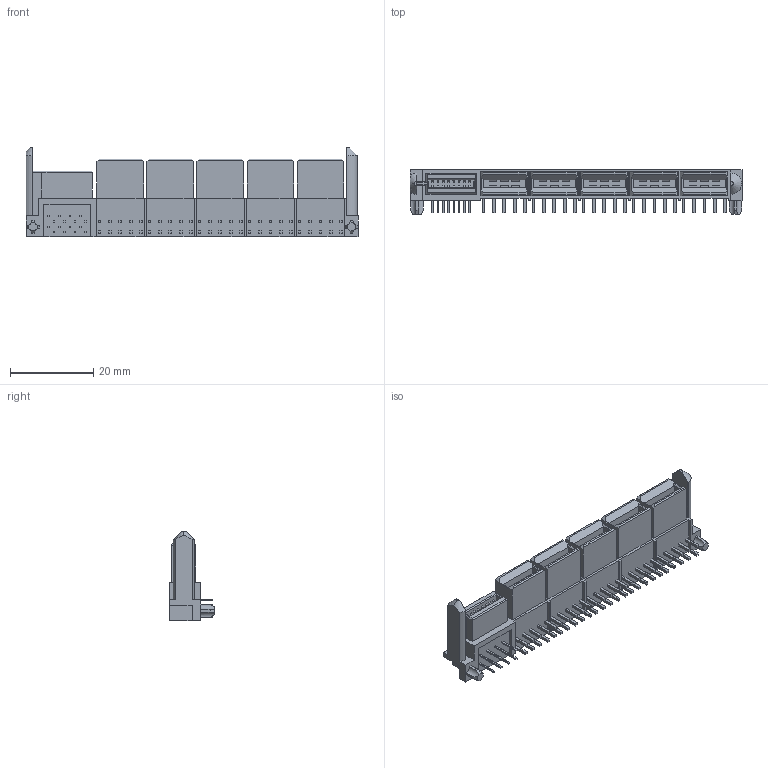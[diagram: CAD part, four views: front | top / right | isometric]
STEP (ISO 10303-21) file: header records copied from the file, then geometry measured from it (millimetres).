
FILE_DESCRIPTION (( 'STEP AP214' ), '1' );
FILE_NAME ('9392-4SS16P10P32CB30DA.STEP', '2020-02-10T09:54:03', ( 'ADMIN' ), ( '' ), 'SwSTEP 2.0', 'SolidWorks 2011', '' );
FILE_SCHEMA (( 'AUTOMOTIVE_DESIGN' ));
Length unit declared in the file: millimetre
Products named in the file (1): 9392-4SS16P10P32CB30DA
Bounding box: 79.63 x 10.75 x 21.42 mm (x, y, z)
Volume: 7372.5 mm3; surface area: 6811.1 mm2
Topology: 1 solids, 1 shells, 1414 faces, 3639 edges, 2340 vertices
Faces by surface type: plane 1137, cylinder 161, cone 68, bspline 48
Entity records: 56121 total; most frequent: CARTESIAN_POINT 9355, ORIENTED_EDGE 7278, DIRECTION 6535, EDGE_CURVE 3639, LINE 2979, VECTOR 2979, VERTEX_POINT 2340, AXIS2_PLACEMENT_3D 1778
